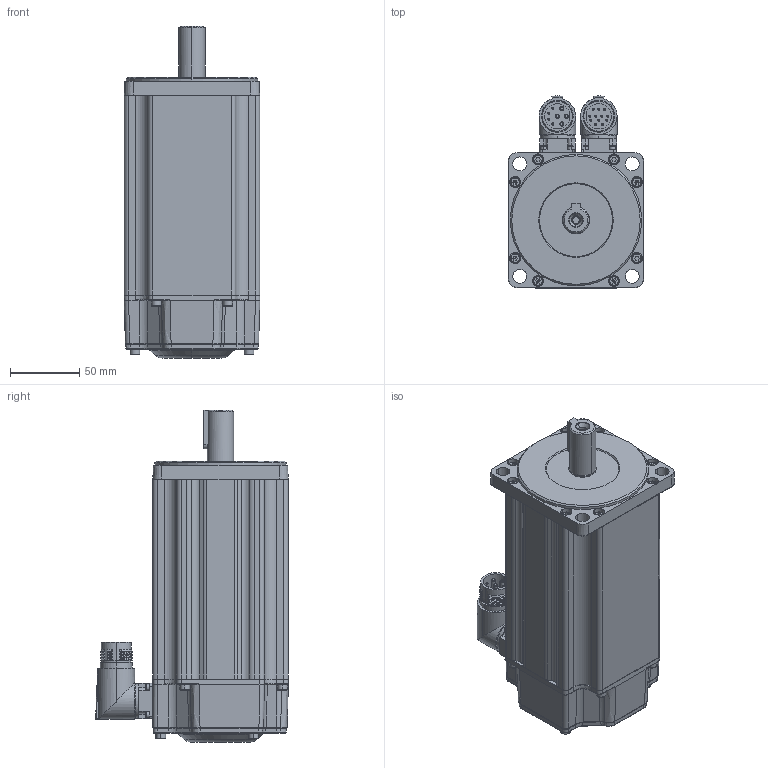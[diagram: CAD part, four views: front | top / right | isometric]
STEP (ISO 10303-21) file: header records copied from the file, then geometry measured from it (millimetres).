
FILE_DESCRIPTION((''),'2;1');
FILE_NAME('ZLS1152-XXX-XXX2-SKXX-D19E40','2024-07-27T11:05:28',('CAROL ZHENG'),(''),'CREO PARAMETRIC BY PTC INC, 2020414','CREO PARAMETRIC BY PTC INC, 2020414','');
FILE_SCHEMA(('CONFIG_CONTROL_DESIGN'));
Length unit declared in the file: millimetre
Products named in the file (1): ZLS1152-XXX-XXX2-SKXX-D19E40
Bounding box: 98.04 x 139.27 x 239.99 mm (x, y, z)
Surface area: 119453 mm2 (no closed solid volume)
Topology: 0 solids, 38 shells, 959 faces, 2615 edges, 1682 vertices
Faces by surface type: plane 383, cylinder 243, cone 183, torus 116, bspline 34
Entity records: 33549 total; most frequent: CARTESIAN_POINT 9965, DIRECTION 4903, ORIENTED_EDGE 4557, EDGE_CURVE 2597, AXIS2_PLACEMENT_3D 1842, VERTEX_POINT 1682, VECTOR 1219, LINE 1219
